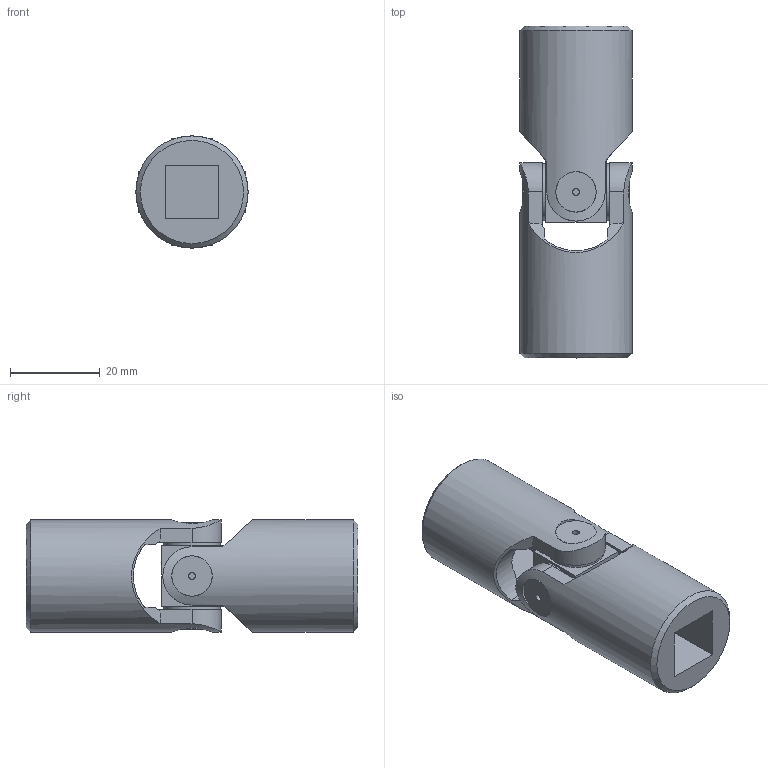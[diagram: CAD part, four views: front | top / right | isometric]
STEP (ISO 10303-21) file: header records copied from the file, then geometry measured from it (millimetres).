
FILE_DESCRIPTION(/* description */ ('EXTENSIBLE TRANSIMISSIONS Series G DIN 808 -2-'),/* implementation_level */ '2;1');
FILE_NAME(/* name */ '\\SRV2016\Societa\Stefano\Disegni 3D\Dis. Clienti\0000Catalogo 3D\01Singoli G-GB\Ø25_1GB-2Q_SGBS162Q.stp',/* time_stamp */ '2021-11-10T15:24:28+01:00',/* author */ ('acquisti'),/* organization */ ('MARIOFERRI'),/* preprocessor_version */ 'ST-DEVELOPER v15.6',/* originating_system */ 'Autodesk Inventor 2015',/* authorisation */ '');
FILE_SCHEMA (('AUTOMOTIVE_DESIGN { 1 0 10303 214 3 1 1 }'));
Length unit declared in the file: millimetre
Products named in the file (3): 04G SFE; 1GB MOQ; Assieme6
Assembly tree (3 placements, depth 2):
  Assieme6
    04G SFE
    1GB MOQ  x2
Bounding box: 25 x 74 x 25 mm (x, y, z)
Volume: 24057.1 mm3; surface area: 11080.4 mm2
Topology: 3 solids, 3 shells, 102 faces, 252 edges, 166 vertices
Faces by surface type: plane 44, cylinder 38, cone 18, torus 2
Full cylindrical faces by diameter (mm): 1.5 x4, 12.5 x4, 25 x2
Entity records: 1899 total; most frequent: CARTESIAN_POINT 577, ORIENTED_EDGE 258, DIRECTION 252, EDGE_CURVE 129, AXIS2_PLACEMENT_3D 106, VERTEX_POINT 91, EDGE_LOOP 76, FACE_OUTER_BOUND 58
